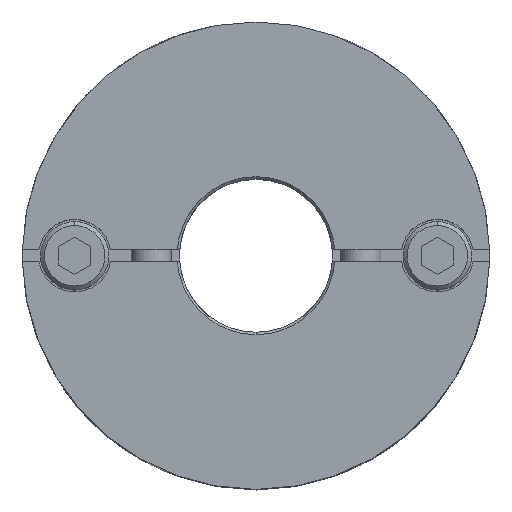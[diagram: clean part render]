
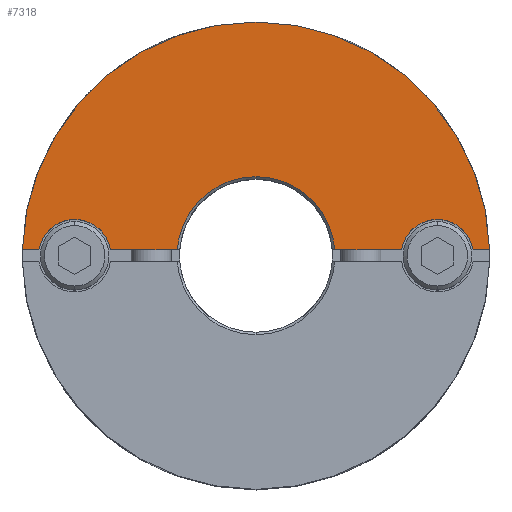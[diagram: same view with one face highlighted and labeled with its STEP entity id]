
A CAD part, top view. The second image highlights one B-rep face of the part: STEP entity #7318.
In plain terms, the highlighted planar face has unit normal (0, 0, 1).
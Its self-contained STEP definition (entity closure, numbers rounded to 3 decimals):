
#605=CARTESIAN_POINT('',(0.,29.,22.4));
#606=VERTEX_POINT('',#605);
#690=CARTESIAN_POINT('',(-28.99,0.75,22.4));
#691=VERTEX_POINT('',#690);
#698=CARTESIAN_POINT('',(0.0,0.,22.4));
#699=DIRECTION('',(0.0,0.0,-1.0));
#700=DIRECTION('',(0.0,1.0,0.0));
#701=AXIS2_PLACEMENT_3D('',#698,#699,#700);
#702=CIRCLE('',#701,29.0);
#703=EDGE_CURVE('',#691,#606,#702,.T.);
#1021=CARTESIAN_POINT('',(0.,9.8,22.4));
#1022=VERTEX_POINT('',#1021);
#1029=CARTESIAN_POINT('',(-9.771,0.75,22.4));
#1030=VERTEX_POINT('',#1029);
#1031=CARTESIAN_POINT('',(0.0,0.,22.4));
#1032=DIRECTION('',(0.0,0.0,1.0));
#1033=DIRECTION('',(0.0,-1.0,0.0));
#1034=AXIS2_PLACEMENT_3D('',#1031,#1032,#1033);
#1035=CIRCLE('',#1034,9.8);
#1036=EDGE_CURVE('',#1022,#1030,#1035,.T.);
#1099=CARTESIAN_POINT('',(-22.5,4.5,22.4));
#1100=VERTEX_POINT('',#1099);
#1109=CARTESIAN_POINT('',(-26.937,0.75,22.4));
#1110=VERTEX_POINT('',#1109);
#1111=CARTESIAN_POINT('',(-22.5,0.,22.4));
#1112=DIRECTION('',(0.0,0.0,-1.0));
#1113=DIRECTION('',(0.0,1.0,0.0));
#1114=AXIS2_PLACEMENT_3D('',#1111,#1112,#1113);
#1115=CIRCLE('',#1114,4.5);
#1116=EDGE_CURVE('',#1110,#1100,#1115,.T.);
#1183=CARTESIAN_POINT('',(22.5,4.5,22.4));
#1184=VERTEX_POINT('',#1183);
#1193=CARTESIAN_POINT('',(18.063,0.75,22.4));
#1194=VERTEX_POINT('',#1193);
#1195=CARTESIAN_POINT('',(22.5,0.,22.4));
#1196=DIRECTION('',(0.0,0.0,-1.0));
#1197=DIRECTION('',(0.0,1.0,0.0));
#1198=AXIS2_PLACEMENT_3D('',#1195,#1196,#1197);
#1199=CIRCLE('',#1198,4.5);
#1200=EDGE_CURVE('',#1194,#1184,#1199,.T.);
#6994=CARTESIAN_POINT('',(26.937,0.75,22.4));
#6995=VERTEX_POINT('',#6994);
#7002=CARTESIAN_POINT('',(22.5,0.,22.4));
#7003=DIRECTION('',(0.0,0.0,-1.0));
#7004=DIRECTION('',(0.0,1.0,0.0));
#7005=AXIS2_PLACEMENT_3D('',#7002,#7003,#7004);
#7006=CIRCLE('',#7005,4.5);
#7007=EDGE_CURVE('',#1184,#6995,#7006,.T.);
#7060=CARTESIAN_POINT('',(-18.063,0.75,22.4));
#7061=VERTEX_POINT('',#7060);
#7068=CARTESIAN_POINT('',(-22.5,0.,22.4));
#7069=DIRECTION('',(0.0,0.0,-1.0));
#7070=DIRECTION('',(0.0,1.0,0.0));
#7071=AXIS2_PLACEMENT_3D('',#7068,#7069,#7070);
#7072=CIRCLE('',#7071,4.5);
#7073=EDGE_CURVE('',#1100,#7061,#7072,.T.);
#7092=CARTESIAN_POINT('',(28.99,0.75,22.4));
#7093=VERTEX_POINT('',#7092);
#7100=CARTESIAN_POINT('',(26.937,0.75,22.4));
#7101=DIRECTION('',(1.0,0.0,0.0));
#7102=VECTOR('',#7101,2.053);
#7103=LINE('',#7100,#7102);
#7104=EDGE_CURVE('',#6995,#7093,#7103,.T.);
#7115=CARTESIAN_POINT('',(9.771,0.75,22.4));
#7116=VERTEX_POINT('',#7115);
#7117=CARTESIAN_POINT('',(9.771,0.75,22.4));
#7118=DIRECTION('',(1.0,0.0,0.0));
#7119=VECTOR('',#7118,8.292);
#7120=LINE('',#7117,#7119);
#7121=EDGE_CURVE('',#7116,#1194,#7120,.T.);
#7277=CARTESIAN_POINT('',(0.,2.636,22.4));
#7278=DIRECTION('',(0.0,0.0,1.0));
#7279=DIRECTION('',(0.0,1.0,0.0));
#7280=AXIS2_PLACEMENT_3D('',#7277,#7278,#7279);
#7281=PLANE('',#7280);
#7282=ORIENTED_EDGE('',*,*,#1200,.T.);
#7283=ORIENTED_EDGE('',*,*,#7007,.T.);
#7284=ORIENTED_EDGE('',*,*,#7104,.T.);
#7285=CARTESIAN_POINT('',(0.0,0.,22.4));
#7286=DIRECTION('',(0.0,0.0,-1.0));
#7287=DIRECTION('',(0.0,1.0,0.0));
#7288=AXIS2_PLACEMENT_3D('',#7285,#7286,#7287);
#7289=CIRCLE('',#7288,29.0);
#7290=EDGE_CURVE('',#606,#7093,#7289,.T.);
#7291=ORIENTED_EDGE('',*,*,#7290,.F.);
#7292=ORIENTED_EDGE('',*,*,#703,.F.);
#7293=CARTESIAN_POINT('',(-28.99,0.75,22.4));
#7294=DIRECTION('',(1.0,0.0,0.0));
#7295=VECTOR('',#7294,2.053);
#7296=LINE('',#7293,#7295);
#7297=EDGE_CURVE('',#691,#1110,#7296,.T.);
#7298=ORIENTED_EDGE('',*,*,#7297,.T.);
#7299=ORIENTED_EDGE('',*,*,#1116,.T.);
#7300=ORIENTED_EDGE('',*,*,#7073,.T.);
#7301=CARTESIAN_POINT('',(-18.063,0.75,22.4));
#7302=DIRECTION('',(1.0,0.0,0.0));
#7303=VECTOR('',#7302,8.292);
#7304=LINE('',#7301,#7303);
#7305=EDGE_CURVE('',#7061,#1030,#7304,.T.);
#7306=ORIENTED_EDGE('',*,*,#7305,.T.);
#7307=ORIENTED_EDGE('',*,*,#1036,.F.);
#7308=CARTESIAN_POINT('',(0.0,0.,22.4));
#7309=DIRECTION('',(0.0,0.0,1.0));
#7310=DIRECTION('',(0.0,-1.0,0.0));
#7311=AXIS2_PLACEMENT_3D('',#7308,#7309,#7310);
#7312=CIRCLE('',#7311,9.8);
#7313=EDGE_CURVE('',#7116,#1022,#7312,.T.);
#7314=ORIENTED_EDGE('',*,*,#7313,.F.);
#7315=ORIENTED_EDGE('',*,*,#7121,.T.);
#7316=EDGE_LOOP('',(#7282,#7283,#7284,#7291,#7292,#7298,#7299,#7300,#7306,#7307,#7314,#7315));
#7317=FACE_OUTER_BOUND('',#7316,.T.);
#7318=ADVANCED_FACE('',(#7317),#7281,.T.);
